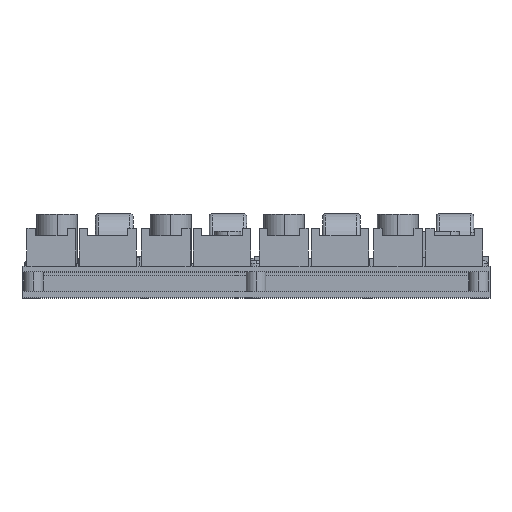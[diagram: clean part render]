
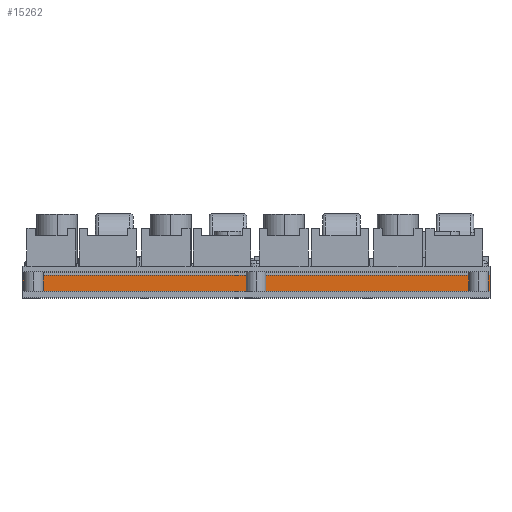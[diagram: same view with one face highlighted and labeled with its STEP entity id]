
A CAD part, top view. The second image highlights one B-rep face of the part: STEP entity #15262.
In plain terms, the highlighted planar face has unit normal (0, 0, 1) as drawn and (0, 0, -1) by its records, which use the part's own axes.
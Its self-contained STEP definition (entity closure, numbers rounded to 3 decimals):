
#19 = EDGE_CURVE ( 'NONE', #28405, #50413, #13481, .T. ) ;
#2003 = CARTESIAN_POINT ( 'NONE',  ( 71.5, 7., -32. ) ) ;
#8260 = CARTESIAN_POINT ( 'NONE',  ( -71.5, 7., -32. ) ) ;
#8951 = DIRECTION ( 'NONE',  ( -1., 0., 0. ) ) ;
#11961 = CARTESIAN_POINT ( 'NONE',  ( 71.5, 2., -32. ) ) ;
#13457 = DIRECTION ( 'NONE',  ( 0., 1., 0. ) ) ;
#13481 = LINE ( 'NONE', #28852, #48853 ) ;
#13875 = PLANE ( 'NONE',  #13937 ) ;
#13937 = AXIS2_PLACEMENT_3D ( 'NONE', #2003, #45581, #21853 ) ;
#15262 = ADVANCED_FACE ( 'NONE', ( #17119 ), #13875, .F. ) ;
#16374 = DIRECTION ( 'NONE',  ( -1., 0., 0. ) ) ;
#17119 = FACE_OUTER_BOUND ( 'NONE', #22856, .T. ) ;
#19950 = VERTEX_POINT ( 'NONE', #24619 ) ;
#21031 = CARTESIAN_POINT ( 'NONE',  ( -71.5, 7., -32. ) ) ;
#21540 = VERTEX_POINT ( 'NONE', #11961 ) ;
#21556 = ORIENTED_EDGE ( 'NONE', *, *, #24372, .T. ) ;
#21630 = CARTESIAN_POINT ( 'NONE',  ( 71.5, 7., -32. ) ) ;
#21853 = DIRECTION ( 'NONE',  ( 1., 0., 0. ) ) ;
#22856 = EDGE_LOOP ( 'NONE', ( #21556, #43339, #36861, #50895 ) ) ;
#24192 = LINE ( 'NONE', #21630, #34769 ) ;
#24372 = EDGE_CURVE ( 'NONE', #19950, #50413, #42186, .T. ) ;
#24619 = CARTESIAN_POINT ( 'NONE',  ( -71.5, 2., -32. ) ) ;
#26941 = EDGE_CURVE ( 'NONE', #21540, #19950, #35652, .T. ) ;
#28405 = VERTEX_POINT ( 'NONE', #34422 ) ;
#28852 = CARTESIAN_POINT ( 'NONE',  ( 71.5, 7., -32. ) ) ;
#30907 = EDGE_CURVE ( 'NONE', #21540, #28405, #24192, .T. ) ;
#32013 = DIRECTION ( 'NONE',  ( 0., 1., 0. ) ) ;
#34422 = CARTESIAN_POINT ( 'NONE',  ( 71.5, 7., -32. ) ) ;
#34769 = VECTOR ( 'NONE', #13457, 1000. ) ;
#35652 = LINE ( 'NONE', #40670, #44946 ) ;
#36861 = ORIENTED_EDGE ( 'NONE', *, *, #30907, .F. ) ;
#40670 = CARTESIAN_POINT ( 'NONE',  ( 71.5, 2., -32. ) ) ;
#42186 = LINE ( 'NONE', #8260, #50265 ) ;
#43339 = ORIENTED_EDGE ( 'NONE', *, *, #19, .F. ) ;
#44946 = VECTOR ( 'NONE', #8951, 1000. ) ;
#45581 = DIRECTION ( 'NONE',  ( 0., 0., 1. ) ) ;
#48853 = VECTOR ( 'NONE', #16374, 1000. ) ;
#50265 = VECTOR ( 'NONE', #32013, 1000. ) ;
#50413 = VERTEX_POINT ( 'NONE', #21031 ) ;
#50895 = ORIENTED_EDGE ( 'NONE', *, *, #26941, .T. ) ;
